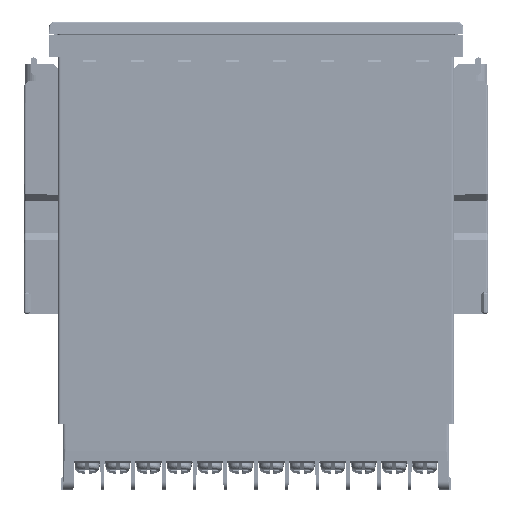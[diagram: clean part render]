
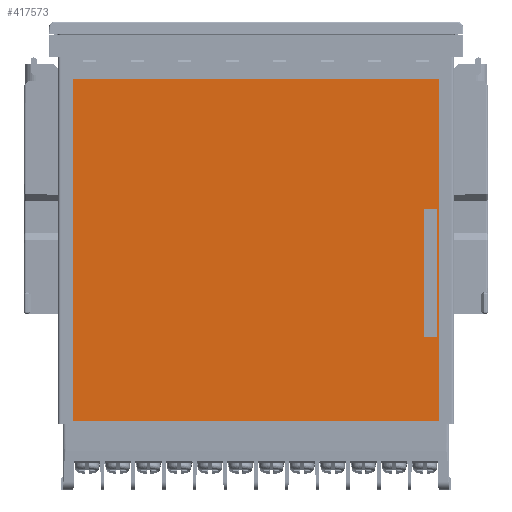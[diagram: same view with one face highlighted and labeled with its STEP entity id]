
A CAD part, left-side view. The second image highlights one B-rep face of the part: STEP entity #417573.
In plain terms, the highlighted planar face has unit normal (-1, 0, 0).
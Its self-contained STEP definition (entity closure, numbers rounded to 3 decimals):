
#8469 = FACE_BOUND ( 'NONE', #73271, .T. ) ;
#18686 = DIRECTION ( 'NONE',  ( 0., 0., 1. ) ) ;
#32303 = ORIENTED_EDGE ( 'NONE', *, *, #281777, .T. ) ;
#43707 = EDGE_LOOP ( 'NONE', ( #358158, #398784, #415869, #32303 ) ) ;
#49635 = LINE ( 'NONE', #94214, #289394 ) ;
#56088 = LINE ( 'NONE', #125756, #314484 ) ;
#61068 = VECTOR ( 'NONE', #153038, 1000. ) ;
#69357 = VERTEX_POINT ( 'NONE', #272388 ) ;
#69500 = LINE ( 'NONE', #478487, #81825 ) ;
#73271 = EDGE_LOOP ( 'NONE', ( #88763, #320148, #258632, #297952 ) ) ;
#80378 = CARTESIAN_POINT ( 'NONE',  ( -45.525, -42.4, -69.8 ) ) ;
#81825 = VECTOR ( 'NONE', #241306, 1000. ) ;
#83795 = DIRECTION ( 'NONE',  ( 0., -1., 0. ) ) ;
#85572 = LINE ( 'NONE', #87672, #221164 ) ;
#87672 = CARTESIAN_POINT ( 'NONE',  ( -45.525, 42.4, -10.25 ) ) ;
#88763 = ORIENTED_EDGE ( 'NONE', *, *, #325664, .F. ) ;
#94214 = CARTESIAN_POINT ( 'NONE',  ( -45.525, -41.9, -89.25 ) ) ;
#96956 = EDGE_CURVE ( 'NONE', #423495, #69357, #69500, .T. ) ;
#121298 = LINE ( 'NONE', #326435, #367596 ) ;
#125756 = CARTESIAN_POINT ( 'NONE',  ( -45.525, 42.4, -89.25 ) ) ;
#143430 = FACE_OUTER_BOUND ( 'NONE', #43707, .T. ) ;
#153038 = DIRECTION ( 'NONE',  ( 0., 0., -1. ) ) ;
#159536 = LINE ( 'NONE', #309630, #61068 ) ;
#184255 = DIRECTION ( 'NONE',  ( -1., 0., 0. ) ) ;
#206205 = VERTEX_POINT ( 'NONE', #269646 ) ;
#208089 = CARTESIAN_POINT ( 'NONE',  ( -45.525, 42.4, -10.25 ) ) ;
#220448 = CARTESIAN_POINT ( 'NONE',  ( -45.525, -42.4, -89.25 ) ) ;
#221164 = VECTOR ( 'NONE', #364429, 1000. ) ;
#223342 = VECTOR ( 'NONE', #83795, 1000. ) ;
#228481 = DIRECTION ( 'NONE',  ( 0., 1., 0. ) ) ;
#232204 = EDGE_CURVE ( 'NONE', #69357, #206205, #254095, .T. ) ;
#241306 = DIRECTION ( 'NONE',  ( 0., 0., -1. ) ) ;
#243965 = AXIS2_PLACEMENT_3D ( 'NONE', #220448, #184255, #302964 ) ;
#254095 = LINE ( 'NONE', #80378, #223342 ) ;
#258632 = ORIENTED_EDGE ( 'NONE', *, *, #232204, .F. ) ;
#269646 = CARTESIAN_POINT ( 'NONE',  ( -45.525, -41.9, -69.8 ) ) ;
#272388 = CARTESIAN_POINT ( 'NONE',  ( -45.525, -38.9, -69.8 ) ) ;
#281777 = EDGE_CURVE ( 'NONE', #498697, #369456, #159536, .T. ) ;
#289394 = VECTOR ( 'NONE', #374387, 1000. ) ;
#297952 = ORIENTED_EDGE ( 'NONE', *, *, #96956, .F. ) ;
#299558 = PLANE ( 'NONE',  #243965 ) ;
#302964 = DIRECTION ( 'NONE',  ( 0., 0., 1. ) ) ;
#309630 = CARTESIAN_POINT ( 'NONE',  ( -45.525, 42.4, -89.25 ) ) ;
#314484 = VECTOR ( 'NONE', #404221, 1000. ) ;
#320148 = ORIENTED_EDGE ( 'NONE', *, *, #504535, .F. ) ;
#324180 = VERTEX_POINT ( 'NONE', #478344 ) ;
#325664 = EDGE_CURVE ( 'NONE', #506212, #423495, #485170, .T. ) ;
#326429 = CARTESIAN_POINT ( 'NONE',  ( -45.525, 42.4, -89.25 ) ) ;
#326435 = CARTESIAN_POINT ( 'NONE',  ( -45.525, -42.4, -89.25 ) ) ;
#344758 = EDGE_CURVE ( 'NONE', #324180, #499591, #121298, .T. ) ;
#358158 = ORIENTED_EDGE ( 'NONE', *, *, #467027, .T. ) ;
#364429 = DIRECTION ( 'NONE',  ( 0., 1., 0. ) ) ;
#367596 = VECTOR ( 'NONE', #18686, 1000. ) ;
#368354 = VECTOR ( 'NONE', #228481, 1000. ) ;
#369456 = VERTEX_POINT ( 'NONE', #326429 ) ;
#374387 = DIRECTION ( 'NONE',  ( 0., 0., 1. ) ) ;
#390160 = CARTESIAN_POINT ( 'NONE',  ( -45.525, -41.9, -40.3 ) ) ;
#398784 = ORIENTED_EDGE ( 'NONE', *, *, #344758, .T. ) ;
#404221 = DIRECTION ( 'NONE',  ( 0., -1., 0. ) ) ;
#415869 = ORIENTED_EDGE ( 'NONE', *, *, #475331, .T. ) ;
#417573 = ADVANCED_FACE ( 'NONE', ( #8469, #143430 ), #299558, .T. ) ;
#423495 = VERTEX_POINT ( 'NONE', #441944 ) ;
#424442 = CARTESIAN_POINT ( 'NONE',  ( -45.525, -42.4, -40.3 ) ) ;
#441944 = CARTESIAN_POINT ( 'NONE',  ( -45.525, -38.9, -40.3 ) ) ;
#467027 = EDGE_CURVE ( 'NONE', #369456, #324180, #56088, .T. ) ;
#475331 = EDGE_CURVE ( 'NONE', #499591, #498697, #85572, .T. ) ;
#478344 = CARTESIAN_POINT ( 'NONE',  ( -45.525, -42.4, -89.25 ) ) ;
#478487 = CARTESIAN_POINT ( 'NONE',  ( -45.525, -38.9, -89.25 ) ) ;
#485170 = LINE ( 'NONE', #424442, #368354 ) ;
#497750 = CARTESIAN_POINT ( 'NONE',  ( -45.525, -42.4, -10.25 ) ) ;
#498697 = VERTEX_POINT ( 'NONE', #208089 ) ;
#499591 = VERTEX_POINT ( 'NONE', #497750 ) ;
#504535 = EDGE_CURVE ( 'NONE', #206205, #506212, #49635, .T. ) ;
#506212 = VERTEX_POINT ( 'NONE', #390160 ) ;
